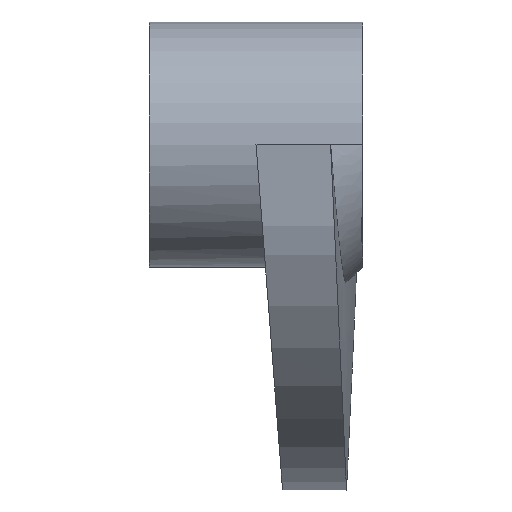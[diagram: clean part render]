
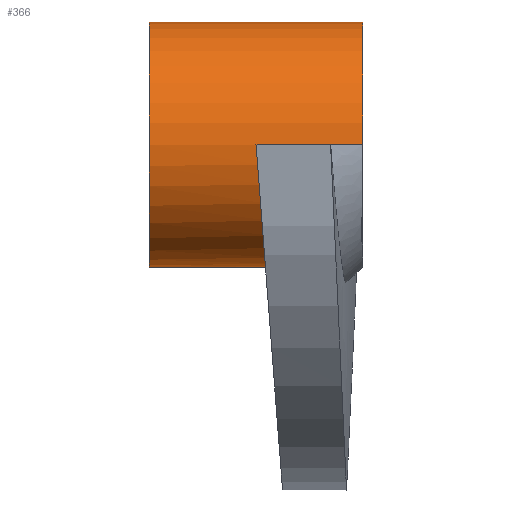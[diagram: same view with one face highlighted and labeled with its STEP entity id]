
A CAD part, left-side view. The second image highlights one B-rep face of the part: STEP entity #366.
In plain terms, the highlighted cylindrical face has radius 11.5 mm (diameter 23 mm), a partial arc.
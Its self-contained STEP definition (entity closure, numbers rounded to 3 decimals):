
#14 = CARTESIAN_POINT ( 'NONE',  ( 0., 0., 0. ) ) ;
#46 = EDGE_CURVE ( 'NONE', #121, #616, #753, .T. ) ;
#75 = AXIS2_PLACEMENT_3D ( 'NONE', #14, #760, #123 ) ;
#80 = CARTESIAN_POINT ( 'NONE',  ( -6.097, 8.209, -9.758 ) ) ;
#121 = VERTEX_POINT ( 'NONE', #452 ) ;
#123 = DIRECTION ( 'NONE',  ( 0., 0., 1. ) ) ;
#130 = CYLINDRICAL_SURFACE ( 'NONE', #352, 11.5 ) ;
#174 = ORIENTED_EDGE ( 'NONE', *, *, #687, .T. ) ;
#184 = CARTESIAN_POINT ( 'NONE',  ( 0., 20., 0. ) ) ;
#187 = CARTESIAN_POINT ( 'NONE',  ( -5.104, 8.065, -10.312 ) ) ;
#202 = CARTESIAN_POINT ( 'NONE',  ( 0., 20., 0. ) ) ;
#228 = DIRECTION ( 'NONE',  ( 0., -1., 0. ) ) ;
#271 = ORIENTED_EDGE ( 'NONE', *, *, #806, .F. ) ;
#291 = CARTESIAN_POINT ( 'NONE',  ( -11.118, 9.506, -2.964 ) ) ;
#314 = DIRECTION ( 'NONE',  ( 0., 0., 1. ) ) ;
#349 = CARTESIAN_POINT ( 'NONE',  ( -3.723, 7.884, -10.907 ) ) ;
#352 = AXIS2_PLACEMENT_3D ( 'NONE', #184, #824, #389 ) ;
#366 = ADVANCED_FACE ( 'NONE', ( #759 ), #130, .T. ) ;
#389 = DIRECTION ( 'NONE',  ( 0., 0., -1. ) ) ;
#394 = CARTESIAN_POINT ( 'NONE',  ( 0., 20., 11.5 ) ) ;
#395 = CARTESIAN_POINT ( 'NONE',  ( -10.773, 9.321, -4.042 ) ) ;
#435 = CARTESIAN_POINT ( 'NONE',  ( 0., 20., -11.5 ) ) ;
#449 = CARTESIAN_POINT ( 'NONE',  ( -1.505, 7.641, -11.427 ) ) ;
#452 = CARTESIAN_POINT ( 'NONE',  ( -11.5, 10., 0. ) ) ;
#497 = AXIS2_PLACEMENT_3D ( 'NONE', #202, #964, #314 ) ;
#508 = CARTESIAN_POINT ( 'NONE',  ( -9.991, 9.023, -5.745 ) ) ;
#559 = CARTESIAN_POINT ( 'NONE',  ( 0., 7.5, -11.5 ) ) ;
#583 = ORIENTED_EDGE ( 'NONE', *, *, #46, .F. ) ;
#603 = CARTESIAN_POINT ( 'NONE',  ( -11.5, 9.875, -0.757 ) ) ;
#610 = CARTESIAN_POINT ( 'NONE',  ( -8.676, 8.679, -7.586 ) ) ;
#616 = VERTEX_POINT ( 'NONE', #637 ) ;
#637 = CARTESIAN_POINT ( 'NONE',  ( 0., 7.5, -11.5 ) ) ;
#641 = LINE ( 'NONE', #732, #1052 ) ;
#675 = VERTEX_POINT ( 'NONE', #1198 ) ;
#680 = ORIENTED_EDGE ( 'NONE', *, *, #816, .T. ) ;
#681 = CIRCLE ( 'NONE', #497, 11.5 ) ;
#687 = EDGE_CURVE ( 'NONE', #675, #616, #886, .T. ) ;
#700 = EDGE_CURVE ( 'NONE', #1335, #1188, #1200, .T. ) ;
#709 = ORIENTED_EDGE ( 'NONE', *, *, #882, .F. ) ;
#710 = LINE ( 'NONE', #394, #943 ) ;
#714 = CARTESIAN_POINT ( 'NONE',  ( -11.5, 10., 0. ) ) ;
#720 = CARTESIAN_POINT ( 'NONE',  ( -7.038, 8.359, -9.126 ) ) ;
#728 = CARTESIAN_POINT ( 'NONE',  ( 0., 20., 11.5 ) ) ;
#732 = CARTESIAN_POINT ( 'NONE',  ( -11.5, 20., 0. ) ) ;
#753 = B_SPLINE_CURVE_WITH_KNOTS ( 'NONE', 3,
 ( #714, #603, #1252, #940, #291, #1059, #395, #1166, #508, #1260, #610, #1356, #720, #80, #829, #187, #1000, #349, #1111, #449, #1216, #559 ),
 .UNSPECIFIED., .F., .F.,
 ( 4, 2, 2, 2, 2, 2, 2, 2, 2, 2, 4 ),
 ( 0., 0.002, 0.003, 0.005, 0.007, 0.009, 0.011, 0.012, 0.014, 0.016, 0.018 ),
 .UNSPECIFIED. ) ;
#759 = FACE_OUTER_BOUND ( 'NONE', #769, .T. ) ;
#760 = DIRECTION ( 'NONE',  ( 0., 1., 0. ) ) ;
#769 = EDGE_LOOP ( 'NONE', ( #709, #271, #174, #583, #680, #1095 ) ) ;
#795 = VERTEX_POINT ( 'NONE', #728 ) ;
#806 = EDGE_CURVE ( 'NONE', #675, #795, #681, .T. ) ;
#816 = EDGE_CURVE ( 'NONE', #121, #1335, #641, .T. ) ;
#824 = DIRECTION ( 'NONE',  ( 0., -1., 0. ) ) ;
#829 = CARTESIAN_POINT ( 'NONE',  ( -5.77, 8.16, -9.955 ) ) ;
#882 = EDGE_CURVE ( 'NONE', #795, #1188, #710, .T. ) ;
#883 = CARTESIAN_POINT ( 'NONE',  ( 0., 0., 11.5 ) ) ;
#886 = LINE ( 'NONE', #435, #1077 ) ;
#940 = CARTESIAN_POINT ( 'NONE',  ( -11.208, 9.568, -2.601 ) ) ;
#943 = VECTOR ( 'NONE', #1259, 1000. ) ;
#964 = DIRECTION ( 'NONE',  ( 0., 1., 0. ) ) ;
#1000 = CARTESIAN_POINT ( 'NONE',  ( -4.764, 8.018, -10.474 ) ) ;
#1052 = VECTOR ( 'NONE', #1183, 1000. ) ;
#1059 = CARTESIAN_POINT ( 'NONE',  ( -10.901, 9.383, -3.684 ) ) ;
#1077 = VECTOR ( 'NONE', #228, 1000. ) ;
#1095 = ORIENTED_EDGE ( 'NONE', *, *, #700, .T. ) ;
#1111 = CARTESIAN_POINT ( 'NONE',  ( -3.001, 7.799, -11.128 ) ) ;
#1166 = CARTESIAN_POINT ( 'NONE',  ( -10.342, 9.14, -5.085 ) ) ;
#1183 = DIRECTION ( 'NONE',  ( 0., -1., 0. ) ) ;
#1188 = VERTEX_POINT ( 'NONE', #883 ) ;
#1198 = CARTESIAN_POINT ( 'NONE',  ( 0., 20., -11.5 ) ) ;
#1200 = CIRCLE ( 'NONE', #75, 11.5 ) ;
#1216 = CARTESIAN_POINT ( 'NONE',  ( -0.754, 7.571, -11.5 ) ) ;
#1220 = CARTESIAN_POINT ( 'NONE',  ( -11.5, 0., 0. ) ) ;
#1252 = CARTESIAN_POINT ( 'NONE',  ( -11.426, 9.752, -1.502 ) ) ;
#1259 = DIRECTION ( 'NONE',  ( 0., -1., 0. ) ) ;
#1260 = CARTESIAN_POINT ( 'NONE',  ( -9.16, 8.793, -6.993 ) ) ;
#1335 = VERTEX_POINT ( 'NONE', #1220 ) ;
#1356 = CARTESIAN_POINT ( 'NONE',  ( -7.616, 8.463, -8.649 ) ) ;
